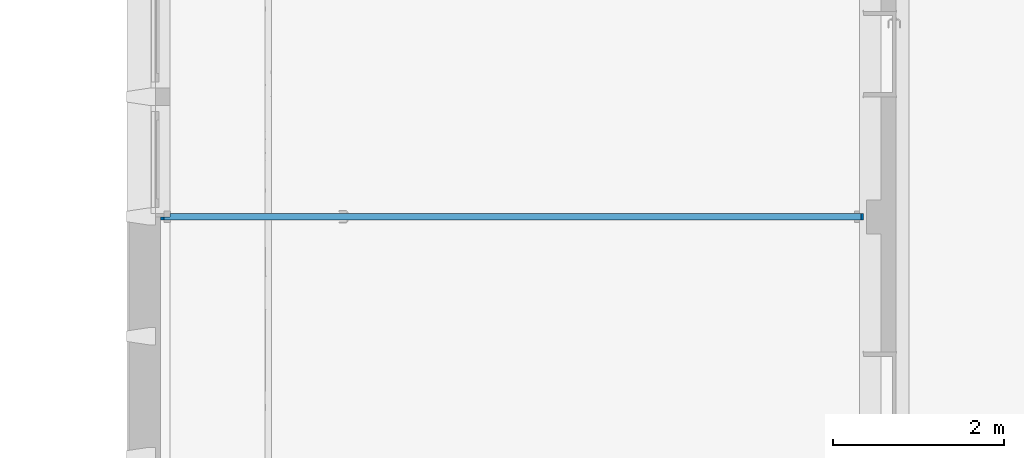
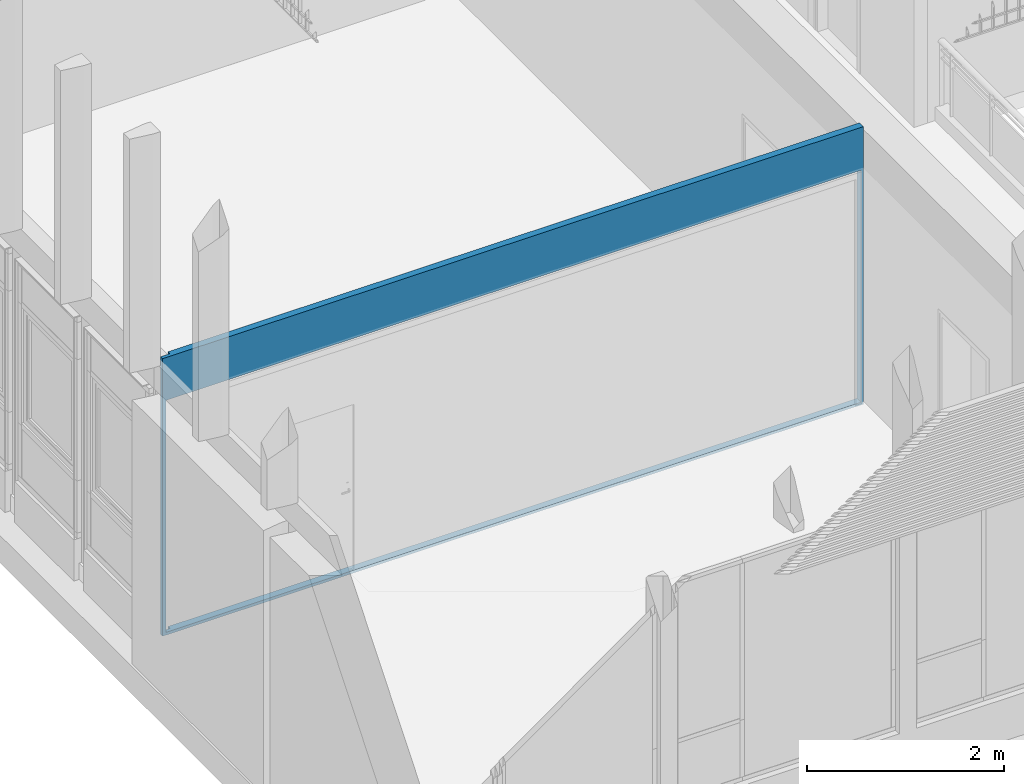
# One storey, part 27 of 65: 1 wall, 1 opening.
"""IFC4 building model written with IfcOpenShell, lengths in metres."""

import ifcopenshell
import ifcopenshell.guid

model = None  # the IFC model being written
_history = None  # IfcOwnerHistory: only IFC2X3 demands one
_inside = {}  # id of a spatial element -> (the spatial element, [elements in it])
_under = {}  # id of a project, library or spatial element -> (it, [spatial elements below it])
_declared = {}  # id of a project -> (the project, [libraries it declares])
_typed = {}  # id of a type object -> (the type object, [elements of that type])
_made_of = {}  # id of a material, layer set ... -> (it, [elements and type objects made of it])


def new_model(schema):
    """Start an empty IFC model of exactly this schema.

    Asked for "IFC4X3", IfcOpenShell would pick the latest addendum, in which some entities
    have other attributes; the version numbers below select the first issue.
    IFC2X3 requires an IfcOwnerHistory on every rooted entity: one is made here for all.
    """
    global model, _history
    if schema == "IFC4X3":
        model = ifcopenshell.file(schema_version=(4, 3, 0, 0))
    else:
        model = ifcopenshell.file(schema=schema)
    _inside.clear()
    _under.clear()
    _declared.clear()
    _typed.clear()
    _made_of.clear()
    _history = None
    if model.schema == "IFC2X3":
        org = make("IfcOrganization", Name="unknown")
        user = make(
            "IfcPersonAndOrganization",
            ThePerson=make("IfcPerson", FamilyName="unknown"),
            TheOrganization=org,
        )
        app = make(
            "IfcApplication",
            ApplicationDeveloper=org,
            Version="unknown",
            ApplicationFullName="unknown",
            ApplicationIdentifier="unknown",
        )
        _history = make(
            "IfcOwnerHistory",
            OwningUser=user,
            OwningApplication=app,
            ChangeAction="ADDED",
            CreationDate=0,
        )
    return model


def make(cls, **values):
    """One entity of the class cls with the attributes given. An attribute that is None is left unset."""
    return model.create_entity(
        cls, **{name: value for name, value in values.items() if value is not None}
    )


def entity(cls, *values):
    """Any entity or typed value of the class cls, its attributes in the order of the schema. None: left unset."""
    e = model.create_entity(cls)
    for i, value in enumerate(values):
        if value is not None:
            e[i] = value
    return e


def rooted(cls, **values):
    """An entity with a GlobalId (a new one), such as an element, a storey or a relation."""
    return make(cls, GlobalId=ifcopenshell.guid.new(), OwnerHistory=_history, **values)


def si_unit(unit_type, name, prefix=None):
    """IfcSIUnit, for example si_unit("LENGTHUNIT", "METRE", prefix="MILLI")."""
    return make("IfcSIUnit", UnitType=unit_type, Prefix=prefix, Name=name)


def converted_unit(unit_type, name, factor, base, dimensions=None, offset=None):
    """IfcConversionBasedUnit, such as the inch: factor (a typed value) times the base unit."""
    return make(
        "IfcConversionBasedUnit"
        if offset is None
        else "IfcConversionBasedUnitWithOffset",
        ConversionOffset=offset,
        Dimensions=None
        if dimensions is None
        else entity("IfcDimensionalExponents", *dimensions),
        UnitType=unit_type,
        Name=name,
        ConversionFactor=make(
            "IfcMeasureWithUnit", ValueComponent=factor, UnitComponent=base
        ),
    )


def derived_unit(unit_type, elements):
    """IfcDerivedUnit: a product of units, each with its exponent."""
    return make(
        "IfcDerivedUnit",
        Elements=[
            make("IfcDerivedUnitElement", Unit=unit, Exponent=power)
            for unit, power in elements
        ],
        UnitType=unit_type,
    )


def assignment(units):
    """IfcUnitAssignment: the units of a project."""
    return None if units is None else make("IfcUnitAssignment", Units=units)


def point(xyz):
    """IfcCartesianPoint."""
    return None if xyz is None else make("IfcCartesianPoint", Coordinates=xyz)


def direction(xyz):
    """IfcDirection."""
    return None if xyz is None else make("IfcDirection", DirectionRatios=xyz)


def frame(location, z_axis=None, x_axis=None):
    """IfcAxis2Placement3D, a coordinate frame: its origin and axes. An axis left out is left unset."""
    return make(
        "IfcAxis2Placement3D",
        Location=point(location),
        Axis=direction(z_axis),
        RefDirection=direction(x_axis),
    )


def origin():
    """The frame at (0, 0, 0) with its axes left unset."""
    return frame((0.0, 0.0, 0.0))


def place(relative_to, where):
    """IfcLocalPlacement: puts the frame where relative to a parent placement (None: the world)."""
    return make(
        "IfcLocalPlacement", PlacementRelTo=relative_to, RelativePlacement=where
    )


def context(
    kind, dimensions, precision=None, world=None, true_north=None, identifier=None
):
    """IfcGeometricRepresentationContext, for example the 3D "Model" context."""
    return make(
        "IfcGeometricRepresentationContext",
        ContextIdentifier=identifier,
        ContextType=kind,
        CoordinateSpaceDimension=dimensions,
        Precision=precision,
        WorldCoordinateSystem=world,
        TrueNorth=true_north,
    )


def subcontext(parent, identifier, kind, view, scale=None):
    """IfcGeometricRepresentationSubContext, for example "Body" below "Model"."""
    return make(
        "IfcGeometricRepresentationSubContext",
        ContextIdentifier=identifier,
        ContextType=kind,
        ParentContext=parent,
        TargetScale=scale,
        TargetView=view,
    )


def project(units=None, contexts=None):
    """IfcProject with its units and contexts."""
    return rooted(
        "IfcProject",
        Name="project",
        RepresentationContexts=contexts,
        UnitsInContext=assignment(units),
    )


def spatial(cls, under=None, at=None, **own):
    """A site, building, storey or space (cls), placed at a placement, below another one or the project."""
    s = rooted(cls, ObjectPlacement=at, **own)
    if under is not None:
        _under.setdefault(under.id(), (under, []))[1].append(s)
    return s


def point_list(points):
    """IfcCartesianPointList2D or 3D."""
    cls = (
        "IfcCartesianPointList2D" if len(points[0]) == 2 else "IfcCartesianPointList3D"
    )
    return make(cls, CoordList=points)


def indexed_curve(points, segments=None, self_intersect=None):
    """IfcIndexedPolyCurve: lines and arcs through numbered points (the first is 1)."""
    return make(
        "IfcIndexedPolyCurve",
        Points=point_list(points),
        Segments=segments,
        SelfIntersect=self_intersect,
    )


def outline(outer, holes=None, kind="AREA"):
    """IfcArbitraryClosedProfileDef: a profile drawn as a closed curve; with holes, ...WithVoids."""
    if holes is None:
        return make("IfcArbitraryClosedProfileDef", ProfileType=kind, OuterCurve=outer)
    return make(
        "IfcArbitraryProfileDefWithVoids",
        ProfileType=kind,
        OuterCurve=outer,
        InnerCurves=holes,
    )


def extrude(swept, where, along, depth):
    """IfcExtrudedAreaSolid: the profile swept, set in the frame where, extruded along a direction by depth."""
    return make(
        "IfcExtrudedAreaSolid",
        SweptArea=swept,
        Position=where,
        ExtrudedDirection=direction(along),
        Depth=depth,
    )


def polygons(points, faces, closed=None, point_numbers=None):
    """IfcPolygonalFaceSet: a face is its outer loop, then its inner loops; points numbered from 1."""
    made = []
    for loops in faces:
        if len(loops) == 1:
            made.append(make("IfcIndexedPolygonalFace", CoordIndex=loops[0]))
        else:
            made.append(
                make(
                    "IfcIndexedPolygonalFaceWithVoids",
                    CoordIndex=loops[0],
                    InnerCoordIndices=loops[1:],
                )
            )
    return make(
        "IfcPolygonalFaceSet",
        Coordinates=point_list(points),
        Closed=closed,
        Faces=made,
        PnIndex=point_numbers,
    )


def shape(context_of_items, identifier, shape_type, items):
    """IfcShapeRepresentation: the items that make up one representation, for example the "Body"."""
    return make(
        "IfcShapeRepresentation",
        ContextOfItems=context_of_items,
        RepresentationIdentifier=identifier,
        RepresentationType=shape_type,
        Items=items,
    )


def material(Name=None, Category=None):
    """IfcMaterial."""
    return make("IfcMaterial", Name=Name, Category=Category)


def layer(
    of_material, thickness, ventilated=None, Name=None, Category=None, Priority=None
):
    """IfcMaterialLayer: one layer of a wall or slab, of a material (None: an air gap)."""
    return make(
        "IfcMaterialLayer",
        Material=of_material,
        LayerThickness=thickness,
        IsVentilated=ventilated,
        Name=Name,
        Category=Category,
        Priority=Priority,
    )


def layer_set(layers, Name=None):
    """IfcMaterialLayerSet."""
    return make("IfcMaterialLayerSet", MaterialLayers=layers, LayerSetName=Name)


def made_of(thing, what):
    """Note that an element or type object is made of a material, layer set ...; save() writes the relation."""
    if what is not None:
        _made_of.setdefault(what.id(), (what, []))[1].append(thing)
    return thing


def type_object(cls, material=None, **own):
    """A type object (cls), such as IfcWallType, which elements share."""
    return made_of(rooted(cls, **own), material)


def element(
    cls,
    number,
    at=None,
    inside=None,
    cuts=None,
    type_object=None,
    material=None,
    context=None,
    identifier="Body",
    shape_type=None,
    held_by="IfcProductDefinitionShape",
    body=None,
    shapes=None,
    **own,
):
    """One element of the class cls, such as IfcWall. Its Tag is "e" and its number.

    at: its placement. inside: the storey or other place that contains it. cuts: it is an
    opening in that element (IfcRelVoidsElement). A single representation is given by context,
    identifier, shape_type and body (its items); several are given by shapes. held_by: the class
    of the entity that holds the representations. save() writes the other relations.
    """
    e = rooted(cls, Tag="e%d" % number, ObjectPlacement=at, **own)
    if body is not None:
        shapes = [shape(context, identifier, shape_type, body)]
    if shapes is not None:
        e.Representation = make(held_by, Representations=shapes)
    if inside is not None:
        _inside.setdefault(inside.id(), (inside, []))[1].append(e)
    if cuts is not None:
        rooted(
            "IfcRelVoidsElement", RelatingBuildingElement=cuts, RelatedOpeningElement=e
        )
    if type_object is not None:
        _typed.setdefault(type_object.id(), (type_object, []))[1].append(e)
    return made_of(e, material)


def aggregate(whole, parts):
    """IfcRelAggregates: a whole, such as a stair, and the parts it consists of."""
    return rooted("IfcRelAggregates", RelatingObject=whole, RelatedObjects=parts)


def save(model, path):
    """Write the relations noted so far, then the file.

    IfcRelAggregates (storeys below a building ...), IfcRelContainedInSpatialStructure (elements
    in a storey), IfcRelDefinesByType, IfcRelAssociatesMaterial and IfcRelDeclares: one each for
    every whole, place, type object, material and project.
    """
    for whole, parts in _under.values():
        aggregate(whole, parts)
    for where, things in _inside.values():
        rooted(
            "IfcRelContainedInSpatialStructure",
            RelatedElements=things,
            RelatingStructure=where,
        )
    for kind, things in _typed.values():
        rooted("IfcRelDefinesByType", RelatedObjects=things, RelatingType=kind)
    for what, things in _made_of.values():
        rooted("IfcRelAssociatesMaterial", RelatedObjects=things, RelatingMaterial=what)
    for by, libraries in _declared.values():
        rooted("IfcRelDeclares", RelatingContext=by, RelatedDefinitions=libraries)
    model.write(path)


model = new_model("IFC4")

# Units and contexts
model_context = context("Model", 3, precision=1e-05, world=origin(), true_north=direction((6.12303176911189e-17, 1.0)))
body_context = subcontext(model_context, "Body", "Model", "MODEL_VIEW")
ifc_project = project(units=[si_unit("LENGTHUNIT", "METRE"), si_unit("AREAUNIT", "SQUARE_METRE"), si_unit("VOLUMEUNIT", "CUBIC_METRE"), converted_unit("PLANEANGLEUNIT", "DEGREE", entity("IfcRatioMeasure", 0.0174532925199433), si_unit("PLANEANGLEUNIT", "RADIAN"), dimensions=[0, 0, 0, 0, 0, 0, 0]), si_unit("MASSUNIT", "GRAM", prefix="KILO"), derived_unit("MASSDENSITYUNIT", [(si_unit("MASSUNIT", "GRAM", prefix="KILO"), 1), (si_unit("LENGTHUNIT", "METRE"), -3)]), derived_unit("MOMENTOFINERTIAUNIT", [(si_unit("LENGTHUNIT", "METRE"), 4)]), si_unit("TIMEUNIT", "SECOND"), si_unit("FREQUENCYUNIT", "HERTZ"), si_unit("THERMODYNAMICTEMPERATUREUNIT", "DEGREE_CELSIUS"), derived_unit("THERMALTRANSMITTANCEUNIT", [(si_unit("MASSUNIT", "GRAM", prefix="KILO"), 1), (si_unit("THERMODYNAMICTEMPERATUREUNIT", "KELVIN"), -1), (si_unit("TIMEUNIT", "SECOND"), -3)]), derived_unit("VOLUMETRICFLOWRATEUNIT", [(si_unit("LENGTHUNIT", "METRE"), 3), (si_unit("TIMEUNIT", "SECOND"), -1)]), si_unit("ELECTRICCURRENTUNIT", "AMPERE"), si_unit("ELECTRICVOLTAGEUNIT", "VOLT"), si_unit("POWERUNIT", "WATT"), si_unit("FORCEUNIT", "NEWTON", prefix="KILO"), si_unit("ILLUMINANCEUNIT", "LUX"), si_unit("LUMINOUSFLUXUNIT", "LUMEN"), si_unit("LUMINOUSINTENSITYUNIT", "CANDELA"), derived_unit("USERDEFINED", [(si_unit("MASSUNIT", "GRAM", prefix="KILO"), -1), (si_unit("LENGTHUNIT", "METRE"), -2), (si_unit("TIMEUNIT", "SECOND"), 3), (si_unit("LUMINOUSFLUXUNIT", "LUMEN"), 1)]), derived_unit("LINEARVELOCITYUNIT", [(si_unit("LENGTHUNIT", "METRE"), 1), (si_unit("TIMEUNIT", "SECOND"), -1)]), si_unit("PRESSUREUNIT", "PASCAL"), derived_unit("USERDEFINED", [(si_unit("LENGTHUNIT", "METRE"), -2), (si_unit("MASSUNIT", "GRAM", prefix="KILO"), 1), (si_unit("TIMEUNIT", "SECOND"), -2)]), derived_unit("LINEARFORCEUNIT", [(si_unit("MASSUNIT", "GRAM", prefix="KILO"), 1), (si_unit("LENGTHUNIT", "METRE"), 1), (si_unit("TIMEUNIT", "SECOND"), -2), (si_unit("LENGTHUNIT", "METRE"), -1)]), derived_unit("PLANARFORCEUNIT", [(si_unit("MASSUNIT", "GRAM", prefix="KILO"), 1), (si_unit("LENGTHUNIT", "METRE"), 1), (si_unit("TIMEUNIT", "SECOND"), -2), (si_unit("LENGTHUNIT", "METRE"), -2)])], contexts=[model_context])

# Site, building, storey
site_placement = place(None, origin())
site = spatial("IfcSite", under=ifc_project, at=site_placement, Name="Default", CompositionType="ELEMENT")
building_placement = place(site_placement, origin())
building = spatial("IfcBuilding", under=site, at=building_placement, Name="HOTEL CONSULAIRE BOULOGNE SUR MER", CompositionType="ELEMENT")
storey_placement = place(building_placement, origin())
storey = spatial("IfcBuildingStorey", under=building, at=storey_placement, Name="Niveau 0", CompositionType="ELEMENT", Elevation=1.31981936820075e-13)

# Wall, opening
ifc_material = material(Name="Mur par défaut", Category="Divers")
ifc_layer = layer(ifc_material, 0.08, Name="Mur par défaut", Category="Divers")
ifc_layer_set = layer_set([ifc_layer], Name="Mur de base:Générique - Int. 80")
wall_type = type_object("IfcWallType", Name="Mur de base:Générique - Int. 80", PredefinedType="NOTDEFINED", material=ifc_layer_set)
wall_placement = place(storey_placement, frame((-5.50977317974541, -24.0150508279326, -0.0200000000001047), z_axis=(0.0, 0.0, 1.0), x_axis=(-1.0, 0.0, 0.0)))
wall = element("IfcWall", 1, at=wall_placement, inside=storey, type_object=wall_type, material=ifc_layer_set, Name="Mur de base:Générique - Int. 80", ObjectType="Mur de base:Générique - Int. 80", PredefinedType="NOTDEFINED", context=body_context, shape_type="Tessellation", body=[
    polygons([(8.10932668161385, -0.0399999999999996, 2.36877184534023e-16), (8.10932668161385, 0.0, 2.03037586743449e-16), (8.10932668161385, 0.0, 0.0350000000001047), (8.10932668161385, -0.0399999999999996, 0.0350000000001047), (9.35024830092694e-17, -0.0399999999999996, 2.32647234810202e-16), (0.028576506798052, -0.0399999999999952, 0.0350000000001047), (0.0285765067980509, -0.0399999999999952, 2.91000000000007), (8.10932668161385, -0.0399999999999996, 2.91000000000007), (8.10932668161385, -0.0399999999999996, 3.06), (8.10932668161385, -0.0399999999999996, 3.44152697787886), (9.35024830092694e-17, -0.0399999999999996, 3.44152697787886), (8.21957650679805, 0.0400000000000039, 2.32647234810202e-16), (-3.7591624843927e-16, 0.0399999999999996, 2.32647234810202e-16), (-3.7591624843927e-16, 0.0399999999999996, 3.44152697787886), (8.21957650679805, 0.0400000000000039, 3.44152697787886), (0.0285765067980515, 0.0400000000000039, 0.0350000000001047), (8.17857650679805, 0.0400000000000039, 0.0350000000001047), (8.17857650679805, 0.0400000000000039, 2.91000000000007), (0.0285765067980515, 0.0400000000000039, 2.91000000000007), (8.21957650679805, 4.33146851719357e-15, 2.32647234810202e-16), (8.10932668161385, 0.0, 3.44152697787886), (8.21957650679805, 4.33146851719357e-15, 3.44152697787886), (8.10932668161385, 0.0, 2.91000000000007), (8.10932668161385, 0.0, 3.4065269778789), (8.21957650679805, 4.33146851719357e-15, 3.4065269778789), (8.17857650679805, 4.33146851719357e-15, 2.91000000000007), (8.17857650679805, 4.33146851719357e-15, 0.0350000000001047)], [[[4, 1, 2, 3]], [[9, 8, 23, 24, 21, 10]], [[25, 20, 12, 15, 22]], [[19, 7, 6, 16]], [[5, 1, 4, 6, 7, 8, 9, 10, 11]], [[3, 2, 20, 25, 22, 21, 24, 23, 26, 27]], [[12, 13, 14, 15], [18, 19, 16, 17]], [[5, 13, 12, 20, 2, 1]], [[23, 8, 7, 19, 18, 26]], [[11, 10, 21, 22, 15, 14]], [[4, 3, 27, 17, 16, 6]], [[13, 5, 11, 14]], [[17, 27, 26, 18]]], closed=True),
])
opening_placement = place(wall_placement, frame((0.0285765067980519, -0.0399999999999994, 0.0350000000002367)))
element("IfcOpeningElement", 2, at=opening_placement, cuts=wall, Name="Mur mobile:Mur mobile:1", ObjectType="Opening", PredefinedType="OPENING", context=body_context, shape_type="SweptSolid", body=[
    extrude(outline(indexed_curve([(0.0, -2.4373456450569e-29), (2.87499999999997, -2.4373456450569e-29), (2.87499999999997, 8.15), (0.0, 8.15), (0.0, -2.4373456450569e-29)], self_intersect=False)), frame((0.0, 0.0, 0.0), z_axis=(0.0, 1.0, 0.0), x_axis=(0.0, 0.0, 1.0)), (0.0, 0.0, 1.0), 0.08),
])

save(model, "model.ifc")
